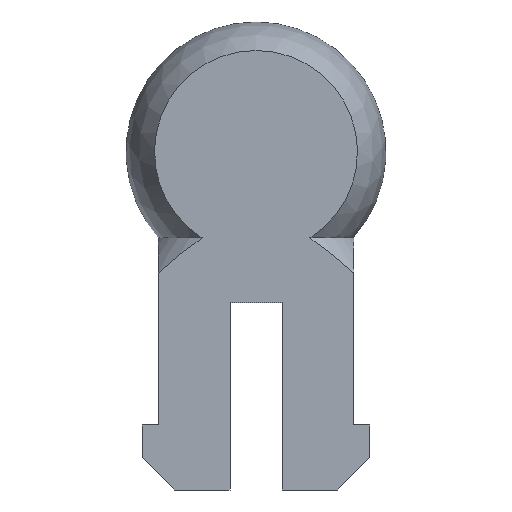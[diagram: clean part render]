
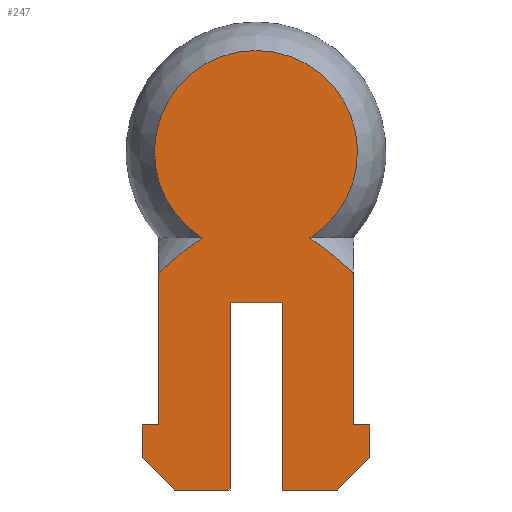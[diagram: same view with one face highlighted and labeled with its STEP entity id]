
A CAD part, left-side view. The second image highlights one B-rep face of the part: STEP entity #247.
In plain terms, the highlighted planar face has unit normal (-1, 0, 0).
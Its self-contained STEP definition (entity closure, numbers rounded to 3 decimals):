
#1 = CARTESIAN_POINT ( 'NONE',  ( -2.5, -1.658, 7.754 ) ) ;
#12 = B_SPLINE_CURVE_WITH_KNOTS ( 'NONE', 3,
 ( #447, #564, #666, #327, #57, #76 ),
 .UNSPECIFIED., .F., .F.,
 ( 4, 2, 4 ),
 ( 0.017, 0.017, 0.018 ),
 .UNSPECIFIED. ) ;
#17 = EDGE_CURVE ( 'NONE', #461, #699, #199, .T. ) ;
#20 = CARTESIAN_POINT ( 'NONE',  ( -2.5, -2.5, 0. ) ) ;
#25 = VECTOR ( 'NONE', #655, 1000. ) ;
#26 = LINE ( 'NONE', #516, #510 ) ;
#35 = CARTESIAN_POINT ( 'NONE',  ( -2.5, -3., 6.676 ) ) ;
#43 = CARTESIAN_POINT ( 'NONE',  ( -2.5, 0.8, 5.754 ) ) ;
#57 = CARTESIAN_POINT ( 'NONE',  ( -2.5, 2.788, 6.869 ) ) ;
#68 = DIRECTION ( 'NONE',  ( 0., 0., -1. ) ) ;
#69 = DIRECTION ( 'NONE',  ( 0., 1., 0. ) ) ;
#71 = CARTESIAN_POINT ( 'NONE',  ( -2.5, 3.5, 1. ) ) ;
#74 = LINE ( 'NONE', #191, #206 ) ;
#76 = CARTESIAN_POINT ( 'NONE',  ( -2.5, 3., 6.676 ) ) ;
#77 = DIRECTION ( 'NONE',  ( 0., 0., 1. ) ) ;
#80 = DIRECTION ( 'NONE',  ( 0., 0., 1. ) ) ;
#92 = DIRECTION ( 'NONE',  ( 0., -1., 0. ) ) ;
#98 = EDGE_CURVE ( 'NONE', #128, #334, #354, .T. ) ;
#113 = ORIENTED_EDGE ( 'NONE', *, *, #142, .F. ) ;
#118 = CARTESIAN_POINT ( 'NONE',  ( -2.5, -2.5, 0. ) ) ;
#123 = EDGE_CURVE ( 'NONE', #184, #362, #350, .T. ) ;
#126 = CARTESIAN_POINT ( 'NONE',  ( -2.5, -0.8, 0. ) ) ;
#127 = LINE ( 'NONE', #20, #321 ) ;
#128 = VERTEX_POINT ( 'NONE', #561 ) ;
#130 = LINE ( 'NONE', #126, #223 ) ;
#135 = EDGE_CURVE ( 'NONE', #265, #146, #26, .T. ) ;
#141 = CARTESIAN_POINT ( 'NONE',  ( -2.5, -0.8, 5.754 ) ) ;
#142 = EDGE_CURVE ( 'NONE', #251, #547, #127, .T. ) ;
#146 = VERTEX_POINT ( 'NONE', #141 ) ;
#152 = ORIENTED_EDGE ( 'NONE', *, *, #98, .F. ) ;
#153 = CARTESIAN_POINT ( 'NONE',  ( -2.5, -3., 2. ) ) ;
#163 = PLANE ( 'NONE',  #707 ) ;
#164 = CARTESIAN_POINT ( 'NONE',  ( -2.5, 3., 6.676 ) ) ;
#176 = LINE ( 'NONE', #667, #660 ) ;
#184 = VERTEX_POINT ( 'NONE', #680 ) ;
#185 = CARTESIAN_POINT ( 'NONE',  ( -2.5, -3.5, 2. ) ) ;
#188 = EDGE_CURVE ( 'NONE', #251, #265, #74, .T. ) ;
#191 = CARTESIAN_POINT ( 'NONE',  ( -2.5, 0.8, 0. ) ) ;
#195 = DIRECTION ( 'NONE',  ( 0., -1., 0. ) ) ;
#199 = LINE ( 'NONE', #367, #216 ) ;
#206 = VECTOR ( 'NONE', #258, 1000. ) ;
#215 = CARTESIAN_POINT ( 'NONE',  ( -2.5, -0.8, 0. ) ) ;
#216 = VECTOR ( 'NONE', #473, 1000. ) ;
#220 = LINE ( 'NONE', #227, #25 ) ;
#223 = VECTOR ( 'NONE', #68, 1000. ) ;
#225 = VECTOR ( 'NONE', #92, 1000. ) ;
#226 = EDGE_CURVE ( 'NONE', #562, #557, #366, .T. ) ;
#227 = CARTESIAN_POINT ( 'NONE',  ( -2.5, -2.5, 0. ) ) ;
#235 = CARTESIAN_POINT ( 'NONE',  ( -2.5, -3.5, 1. ) ) ;
#239 = DIRECTION ( 'NONE',  ( 0., 0.707, 0.707 ) ) ;
#247 = ADVANCED_FACE ( 'NONE', ( #590 ), #163, .F. ) ;
#251 = VERTEX_POINT ( 'NONE', #693 ) ;
#254 = DIRECTION ( 'NONE',  ( 0., 0., -1. ) ) ;
#258 = DIRECTION ( 'NONE',  ( 0., 0., 1. ) ) ;
#265 = VERTEX_POINT ( 'NONE', #43 ) ;
#274 = EDGE_CURVE ( 'NONE', #502, #695, #431, .T. ) ;
#276 = VERTEX_POINT ( 'NONE', #215 ) ;
#282 = ORIENTED_EDGE ( 'NONE', *, *, #310, .F. ) ;
#284 = ORIENTED_EDGE ( 'NONE', *, *, #390, .F. ) ;
#285 = EDGE_CURVE ( 'NONE', #695, #316, #567, .T. ) ;
#294 = CARTESIAN_POINT ( 'NONE',  ( -2.5, -3., 6.676 ) ) ;
#301 = VECTOR ( 'NONE', #77, 1000. ) ;
#310 = EDGE_CURVE ( 'NONE', #502, #562, #176, .T. ) ;
#316 = VERTEX_POINT ( 'NONE', #500 ) ;
#319 = CARTESIAN_POINT ( 'NONE',  ( -2.5, 0., 10.4 ) ) ;
#321 = VECTOR ( 'NONE', #69, 1000. ) ;
#327 = CARTESIAN_POINT ( 'NONE',  ( -2.5, 2.573, 7.059 ) ) ;
#334 = VERTEX_POINT ( 'NONE', #164 ) ;
#350 = LINE ( 'NONE', #573, #639 ) ;
#353 = CARTESIAN_POINT ( 'NONE',  ( -2.5, -3.5, 2. ) ) ;
#354 = LINE ( 'NONE', #673, #301 ) ;
#362 = VERTEX_POINT ( 'NONE', #661 ) ;
#364 = EDGE_CURVE ( 'NONE', #699, #276, #220, .T. ) ;
#366 = LINE ( 'NONE', #586, #225 ) ;
#367 = CARTESIAN_POINT ( 'NONE',  ( -2.5, -3.5, 1. ) ) ;
#373 = CARTESIAN_POINT ( 'NONE',  ( -2.5, -1.902, 7.594 ) ) ;
#375 = CARTESIAN_POINT ( 'NONE',  ( -2.5, 0., 10.4 ) ) ;
#377 = ORIENTED_EDGE ( 'NONE', *, *, #482, .T. ) ;
#382 = ORIENTED_EDGE ( 'NONE', *, *, #364, .F. ) ;
#385 = DIRECTION ( 'NONE',  ( 0., 0., -1. ) ) ;
#388 = DIRECTION ( 'NONE',  ( 0., -1., 0. ) ) ;
#390 = EDGE_CURVE ( 'NONE', #547, #184, #676, .T. ) ;
#391 = AXIS2_PLACEMENT_3D ( 'NONE', #319, #538, #254 ) ;
#395 = ORIENTED_EDGE ( 'NONE', *, *, #497, .T. ) ;
#398 = EDGE_CURVE ( 'NONE', #362, #128, #671, .T. ) ;
#400 = VECTOR ( 'NONE', #549, 1000. ) ;
#413 = EDGE_CURVE ( 'NONE', #557, #461, #612, .T. ) ;
#415 = ORIENTED_EDGE ( 'NONE', *, *, #285, .T. ) ;
#422 = CARTESIAN_POINT ( 'NONE',  ( -2.5, -2.131, 7.419 ) ) ;
#425 = CARTESIAN_POINT ( 'NONE',  ( -2.5, -2.575, 7.057 ) ) ;
#431 = B_SPLINE_CURVE_WITH_KNOTS ( 'NONE', 3,
 ( #35, #706, #425, #422, #373, #537 ),
 .UNSPECIFIED., .F., .F.,
 ( 4, 2, 4 ),
 ( 0.011, 0.012, 0.013 ),
 .UNSPECIFIED. ) ;
#447 = CARTESIAN_POINT ( 'NONE',  ( -2.5, 1.658, 7.754 ) ) ;
#450 = ORIENTED_EDGE ( 'NONE', *, *, #398, .F. ) ;
#461 = VERTEX_POINT ( 'NONE', #235 ) ;
#473 = DIRECTION ( 'NONE',  ( 0., 0.707, -0.707 ) ) ;
#474 = ORIENTED_EDGE ( 'NONE', *, *, #123, .F. ) ;
#482 = EDGE_CURVE ( 'NONE', #146, #276, #130, .T. ) ;
#486 = VECTOR ( 'NONE', #388, 1000. ) ;
#497 = EDGE_CURVE ( 'NONE', #316, #334, #12, .T. ) ;
#500 = CARTESIAN_POINT ( 'NONE',  ( -2.5, 1.658, 7.754 ) ) ;
#502 = VERTEX_POINT ( 'NONE', #294 ) ;
#510 = VECTOR ( 'NONE', #195, 1000. ) ;
#516 = CARTESIAN_POINT ( 'NONE',  ( -2.5, -0.8, 5.754 ) ) ;
#520 = VECTOR ( 'NONE', #239, 1000. ) ;
#535 = ORIENTED_EDGE ( 'NONE', *, *, #226, .F. ) ;
#537 = CARTESIAN_POINT ( 'NONE',  ( -2.5, -1.658, 7.754 ) ) ;
#538 = DIRECTION ( 'NONE',  ( -1., 0., 0. ) ) ;
#547 = VERTEX_POINT ( 'NONE', #580 ) ;
#549 = DIRECTION ( 'NONE',  ( 0., 0., -1. ) ) ;
#557 = VERTEX_POINT ( 'NONE', #353 ) ;
#560 = CARTESIAN_POINT ( 'NONE',  ( -2.5, 3., 2. ) ) ;
#561 = CARTESIAN_POINT ( 'NONE',  ( -2.5, 3., 2. ) ) ;
#562 = VERTEX_POINT ( 'NONE', #153 ) ;
#564 = CARTESIAN_POINT ( 'NONE',  ( -2.5, 1.897, 7.597 ) ) ;
#567 = CIRCLE ( 'NONE', #391, 3.122 ) ;
#571 = ORIENTED_EDGE ( 'NONE', *, *, #188, .T. ) ;
#573 = CARTESIAN_POINT ( 'NONE',  ( -2.5, 3.5, 2. ) ) ;
#580 = CARTESIAN_POINT ( 'NONE',  ( -2.5, 2.5, 0. ) ) ;
#583 = ORIENTED_EDGE ( 'NONE', *, *, #17, .F. ) ;
#586 = CARTESIAN_POINT ( 'NONE',  ( -2.5, -3., 2. ) ) ;
#590 = FACE_OUTER_BOUND ( 'NONE', #678, .T. ) ;
#611 = ORIENTED_EDGE ( 'NONE', *, *, #413, .F. ) ;
#612 = LINE ( 'NONE', #185, #400 ) ;
#638 = DIRECTION ( 'NONE',  ( 0., 0., -1. ) ) ;
#639 = VECTOR ( 'NONE', #80, 1000. ) ;
#650 = DIRECTION ( 'NONE',  ( 1., 0., 0. ) ) ;
#654 = ORIENTED_EDGE ( 'NONE', *, *, #135, .T. ) ;
#655 = DIRECTION ( 'NONE',  ( 0., 1., 0. ) ) ;
#660 = VECTOR ( 'NONE', #385, 1000. ) ;
#661 = CARTESIAN_POINT ( 'NONE',  ( -2.5, 3.5, 2. ) ) ;
#666 = CARTESIAN_POINT ( 'NONE',  ( -2.5, 2.126, 7.423 ) ) ;
#667 = CARTESIAN_POINT ( 'NONE',  ( -2.5, -3., 7.754 ) ) ;
#671 = LINE ( 'NONE', #560, #486 ) ;
#673 = CARTESIAN_POINT ( 'NONE',  ( -2.5, 3., 7.754 ) ) ;
#675 = ORIENTED_EDGE ( 'NONE', *, *, #274, .T. ) ;
#676 = LINE ( 'NONE', #71, #520 ) ;
#678 = EDGE_LOOP ( 'NONE', ( #282, #675, #415, #395, #152, #450, #474, #284, #113, #571, #654, #377, #382, #583, #611, #535 ) ) ;
#680 = CARTESIAN_POINT ( 'NONE',  ( -2.5, 3.5, 1. ) ) ;
#693 = CARTESIAN_POINT ( 'NONE',  ( -2.5, 0.8, 0. ) ) ;
#695 = VERTEX_POINT ( 'NONE', #1 ) ;
#699 = VERTEX_POINT ( 'NONE', #118 ) ;
#706 = CARTESIAN_POINT ( 'NONE',  ( -2.5, -2.79, 6.868 ) ) ;
#707 = AXIS2_PLACEMENT_3D ( 'NONE', #375, #650, #638 ) ;
